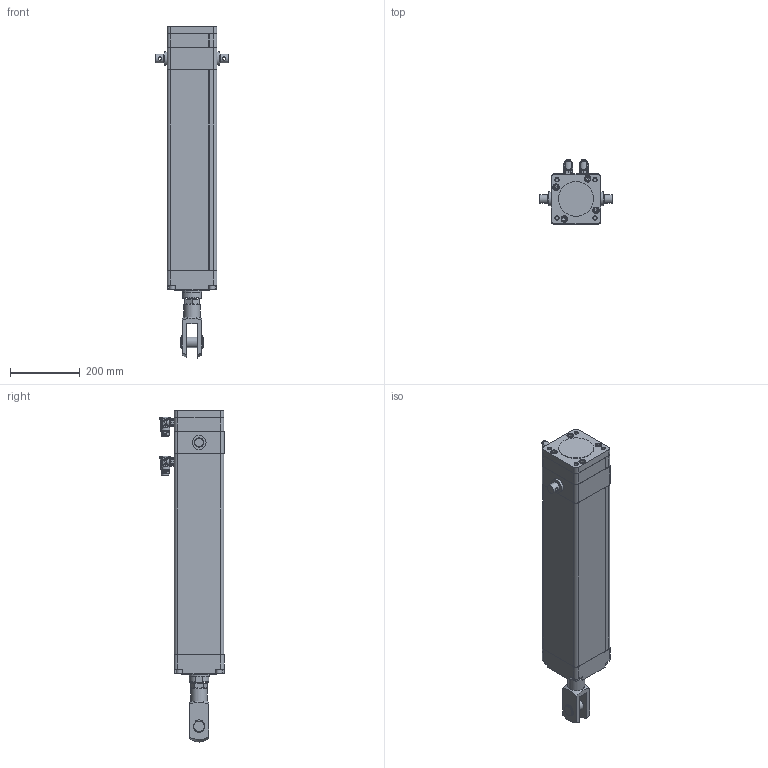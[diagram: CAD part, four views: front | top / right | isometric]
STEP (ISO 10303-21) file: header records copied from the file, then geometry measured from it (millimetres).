
FILE_DESCRIPTION (( 'STEP AP203' ), '1' );
FILE_NAME ('IMA55_BN05_SM431.000_IMA-476953-1.step', '2024-12-16T21:07:22', ( '' ), ( '' ), 'SwSTEP 2.0', 'SolidWorks 2024', '' );
FILE_SCHEMA (( 'CONFIG_CONTROL_DESIGN' ));
Length unit declared in the file: inch
Products named in the file (4): IMA55_BN05_SM431.000_IMA-476953-1; 27559015_IMA55_BN05_SM431.000_IMA-476953-1; Base_IMA55_BN05_SM431.000_IMA-476953-1; tempJoin4_27559012_IMA55_BN05_SM431.000_IMA-476953-1
Assembly tree (3 placements, depth 2):
  IMA55_BN05_SM431.000_IMA-476953-1
    tempJoin4_27559012_IMA55_BN05_SM431.000_IMA-476953-1
    27559015_IMA55_BN05_SM431.000_IMA-476953-1
    Base_IMA55_BN05_SM431.000_IMA-476953-1
Bounding box: 209.79 x 184.34 x 954.25 mm (x, y, z)
Volume: 14053038.6 mm3; surface area: 887965.2 mm2
Topology: 3 solids, 12 shells, 2323 faces, 5998 edges, 3787 vertices
Faces by surface type: plane 1213, cylinder 510, bspline 456, cone 117, torus 27
Full cylindrical faces by diameter (mm): 1 x12, 1.18 x12, 2 x6, 2.25 x4, 2.5 x8, 2.7 x8, 3 x2, 3.2 x2, 4 x4, 4.5 x10, 4.93 x4, 5.41 x1, 5.5 x3, 6.477 x1, 7.8 x4, 9.398 x2, 10.25 x4, 12 x4, 12.5 x8, 12.7 x4, 15.2 x1, 17.4 x1, 18 x8, 19.05 x4, 19.1 x4, 19.9 x1, 21.15 x4, 21.6 x1, 24.968 x2, 25 x2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
Entity records: 91753 total; most frequent: CARTESIAN_POINT 40636, ORIENTED_EDGE 11040, DIRECTION 8909, EDGE_CURVE 5520, VERTEX_POINT 3630, LINE 3107, VECTOR 3107, AXIS2_PLACEMENT_3D 2901
